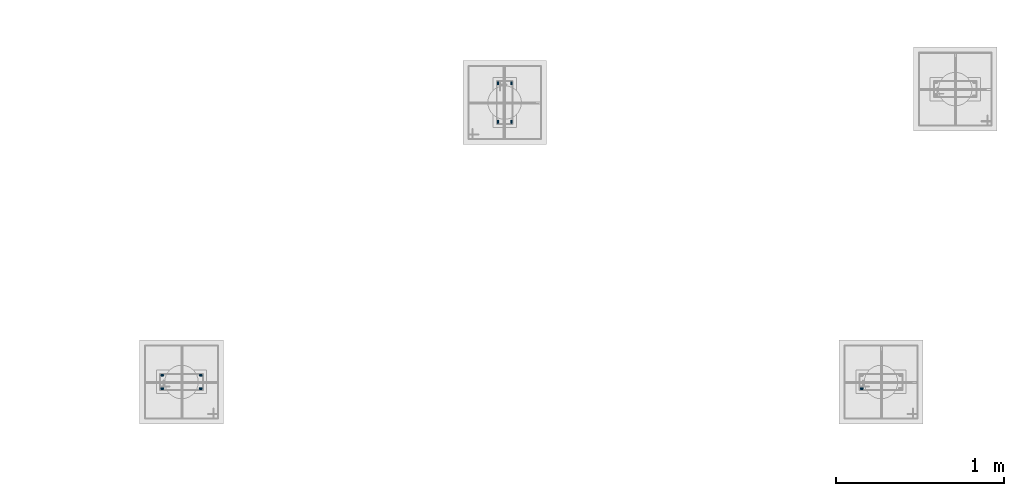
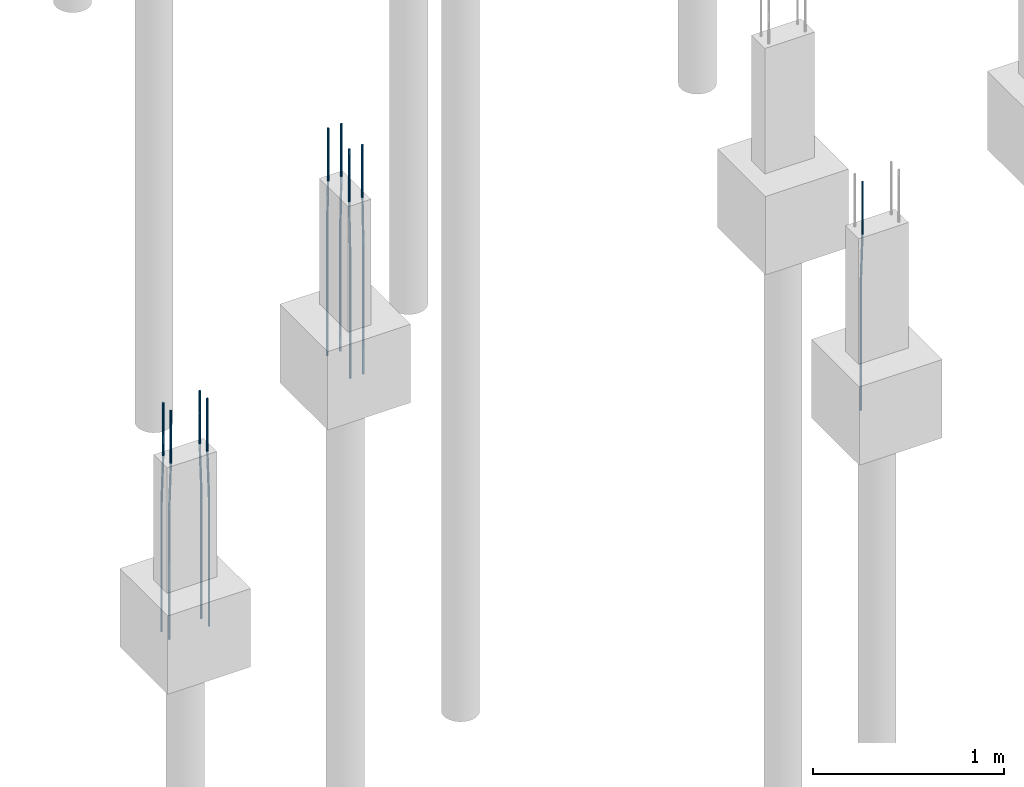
# One storey, part 28 of 119: 9 reinforcing bars.
"""IFC4 building model written with IfcOpenShell, lengths in centimetres."""

from ifc_helpers import new_model, entity, si_unit, derived_unit, frame, origin_with_axes, place, context, project, spatial, element, save


model = new_model("IFC4")

# Units and contexts
model_context = context("Model", 3, precision=1e-05, world=origin_with_axes(), identifier="Body")
ifc_project = project(units=[si_unit("LENGTHUNIT", "METRE", prefix="CENTI"), si_unit("VOLUMEUNIT", "CUBIC_METRE"), si_unit("AREAUNIT", "SQUARE_METRE"), si_unit("POWERUNIT", "WATT"), si_unit("LUMINOUSFLUXUNIT", "LUMEN"), si_unit("ELECTRICCURRENTUNIT", "AMPERE"), si_unit("PRESSUREUNIT", "PASCAL", prefix="KILO"), si_unit("MASSUNIT", "GRAM", prefix="KILO"), si_unit("PLANEANGLEUNIT", "RADIAN"), derived_unit("VOLUMETRICFLOWRATEUNIT", [(si_unit("LENGTHUNIT", "METRE"), 3), (si_unit("TIMEUNIT", "SECOND"), -1)])], contexts=[model_context])

# Site, building, storey
site_placement = place(None, frame((-4000.0, 0.0, 0.0), z_axis=(0.0, 0.0, 1.0), x_axis=(1.0, 0.0, 0.0)))
site = spatial("IfcSite", under=ifc_project, at=site_placement, Name="PADRÃO")
building_placement = place(site_placement, frame((0.0, 0.0, -14.0)))
building = spatial("IfcBuilding", under=site, at=building_placement, Name="CRECHE PRÉ-ESCOLA TIPO 2")
storey_placement = place(building_placement, origin_with_axes())
storey = spatial("IfcBuildingStorey", under=building, at=storey_placement, Name="FUNDAÇÃO", CompositionType="ELEMENT", Elevation=-14.0)

# Reinforcing bars
for number, where, z_axis, x_axis, name in (
    (1, (2722.75, 1926.02, 33.3573001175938), (0.0, 0.0, 1.0), (1.0, 0.0, 0.0), "P90 - Longitudinal"),
    (2, (2714.75, 1926.02, 33.3573001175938), (0.0, 0.0, 1.0), (1.0, 0.0, 0.0), "P90 - Longitudinal"),
):
    element("IfcReinforcingBar", number, at=place(storey_placement, frame(where, z_axis=z_axis, x_axis=x_axis)), inside=storey, Name=name, BarLength=0.0, CrossSectionArea=7.853981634e-05, NominalDiameter=1.0, PredefinedType="MAIN", context=model_context, shape_type="AdvancedSweptSolid", body=[
        entity("IfcSweptDiskSolid", entity("IfcCompositeCurve", [entity("IfcCompositeCurveSegment", "CONTINUOUS", True, entity("IfcPolyline", [entity("IfcCartesianPoint", [0.0, 0.5, -145.357300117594]), entity("IfcCartesianPoint", [0.0, 0.5, -63.3573001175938])])), entity("IfcCompositeCurveSegment", "CONTINUOUS", True, entity("IfcPolyline", [entity("IfcCartesianPoint", [0.0, 0.5, -63.3573001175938]), entity("IfcCartesianPoint", [0.0, -0.5, -33.3573001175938])])), entity("IfcCompositeCurveSegment", "CONTINUOUS", True, entity("IfcPolyline", [entity("IfcCartesianPoint", [0.0, -0.5, -33.3573001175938]), entity("IfcCartesianPoint", [0.0, -0.5, 0.0])]))], False), 0.5),
    ])
for number, where, z_axis, x_axis, name in (
    (3, (2722.75, 1903.02, 33.3573001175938), (0.0, 0.0, 1.0), (1.0, 0.0, 0.0), "P90 - Longitudinal"),
    (4, (2714.75, 1903.02, 33.3573001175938), (0.0, 0.0, 1.0), (1.0, 0.0, 0.0), "P90 - Longitudinal"),
):
    element("IfcReinforcingBar", number, at=place(storey_placement, frame(where, z_axis=z_axis, x_axis=x_axis)), inside=storey, Name=name, BarLength=0.0, CrossSectionArea=7.853981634e-05, NominalDiameter=1.0, PredefinedType="MAIN", context=model_context, shape_type="AdvancedSweptSolid", body=[
        entity("IfcSweptDiskSolid", entity("IfcCompositeCurve", [entity("IfcCompositeCurveSegment", "CONTINUOUS", True, entity("IfcPolyline", [entity("IfcCartesianPoint", [0.0, -0.5, -145.357300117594]), entity("IfcCartesianPoint", [0.0, -0.5, -63.3573001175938])])), entity("IfcCompositeCurveSegment", "CONTINUOUS", True, entity("IfcPolyline", [entity("IfcCartesianPoint", [0.0, -0.5, -63.3573001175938]), entity("IfcCartesianPoint", [0.0, 0.5, -33.3573001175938])])), entity("IfcCompositeCurveSegment", "CONTINUOUS", True, entity("IfcPolyline", [entity("IfcCartesianPoint", [0.0, 0.5, -33.3573001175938]), entity("IfcCartesianPoint", [0.0, 0.5, 0.0])]))], False), 0.5),
    ])
reinforcing_bar_placement = place(storey_placement, frame((2514.5, 1743.84, 33.3573001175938), z_axis=(0.0, 0.0, 1.0), x_axis=(1.0, 0.0, 0.0)))
element("IfcReinforcingBar", 5, at=reinforcing_bar_placement, inside=storey, Name="P98 - Longitudinal", BarLength=0.0, CrossSectionArea=7.853981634e-05, NominalDiameter=1.0, PredefinedType="MAIN", context=model_context, shape_type="AdvancedSweptSolid", body=[
    entity("IfcSweptDiskSolid", entity("IfcCompositeCurve", [entity("IfcCompositeCurveSegment", "CONTINUOUS", True, entity("IfcPolyline", [entity("IfcCartesianPoint", [-0.5, 0.0, -145.357300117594]), entity("IfcCartesianPoint", [-0.5, 0.0, -63.3573001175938])])), entity("IfcCompositeCurveSegment", "CONTINUOUS", True, entity("IfcPolyline", [entity("IfcCartesianPoint", [-0.5, 0.0, -63.3573001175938]), entity("IfcCartesianPoint", [0.5, 0.0, -33.3573001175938])])), entity("IfcCompositeCurveSegment", "CONTINUOUS", True, entity("IfcPolyline", [entity("IfcCartesianPoint", [0.5, 0.0, -33.3573001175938]), entity("IfcCartesianPoint", [0.5, 0.0, 0.0])]))], False), 0.5),
])
for number, where, z_axis, x_axis, name in (
    (6, (2537.5, 1743.84, 33.3573001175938), (0.0, 0.0, 1.0), (1.0, 0.0, 0.0), "P98 - Longitudinal"),
    (7, (2537.5, 1751.84, 33.3573001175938), (0.0, 0.0, 1.0), (1.0, 0.0, 0.0), "P98 - Longitudinal"),
):
    element("IfcReinforcingBar", number, at=place(storey_placement, frame(where, z_axis=z_axis, x_axis=x_axis)), inside=storey, Name=name, BarLength=0.0, CrossSectionArea=7.853981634e-05, NominalDiameter=1.0, PredefinedType="MAIN", context=model_context, shape_type="AdvancedSweptSolid", body=[
        entity("IfcSweptDiskSolid", entity("IfcCompositeCurve", [entity("IfcCompositeCurveSegment", "CONTINUOUS", True, entity("IfcPolyline", [entity("IfcCartesianPoint", [0.5, 0.0, -145.357300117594]), entity("IfcCartesianPoint", [0.5, 0.0, -63.3573001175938])])), entity("IfcCompositeCurveSegment", "CONTINUOUS", True, entity("IfcPolyline", [entity("IfcCartesianPoint", [0.5, 0.0, -63.3573001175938]), entity("IfcCartesianPoint", [-0.5, 0.0, -33.3573001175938])])), entity("IfcCompositeCurveSegment", "CONTINUOUS", True, entity("IfcPolyline", [entity("IfcCartesianPoint", [-0.5, 0.0, -33.3573001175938]), entity("IfcCartesianPoint", [-0.5, 0.0, 0.0])]))], False), 0.5),
    ])
for number, where, z_axis, x_axis, name in (
    (8, (2514.5, 1751.84, 33.3573001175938), (0.0, 0.0, 1.0), (1.0, 0.0, 0.0), "P98 - Longitudinal"),
    (9, (2931.74, 1743.84, 33.3573001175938), (0.0, 0.0, 1.0), (1.0, 0.0, 0.0), "P99 - Longitudinal"),
):
    element("IfcReinforcingBar", number, at=place(storey_placement, frame(where, z_axis=z_axis, x_axis=x_axis)), inside=storey, Name=name, BarLength=0.0, CrossSectionArea=7.853981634e-05, NominalDiameter=1.0, PredefinedType="MAIN", context=model_context, shape_type="AdvancedSweptSolid", body=[
        entity("IfcSweptDiskSolid", entity("IfcCompositeCurve", [entity("IfcCompositeCurveSegment", "CONTINUOUS", True, entity("IfcPolyline", [entity("IfcCartesianPoint", [-0.5, 0.0, -145.357300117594]), entity("IfcCartesianPoint", [-0.5, 0.0, -63.3573001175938])])), entity("IfcCompositeCurveSegment", "CONTINUOUS", True, entity("IfcPolyline", [entity("IfcCartesianPoint", [-0.5, 0.0, -63.3573001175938]), entity("IfcCartesianPoint", [0.5, 0.0, -33.3573001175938])])), entity("IfcCompositeCurveSegment", "CONTINUOUS", True, entity("IfcPolyline", [entity("IfcCartesianPoint", [0.5, 0.0, -33.3573001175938]), entity("IfcCartesianPoint", [0.5, 0.0, 0.0])]))], False), 0.5),
    ])

save(model, "model.ifc")
